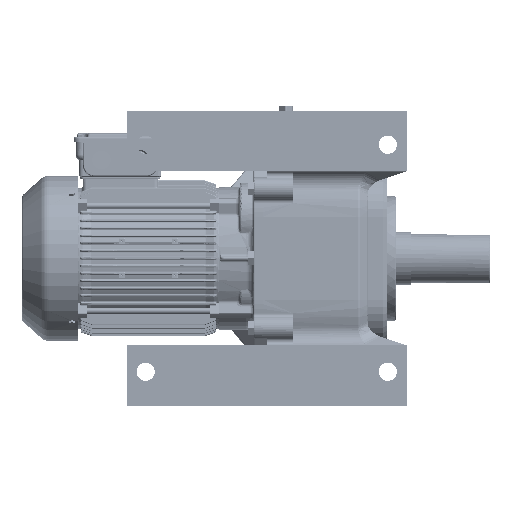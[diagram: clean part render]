
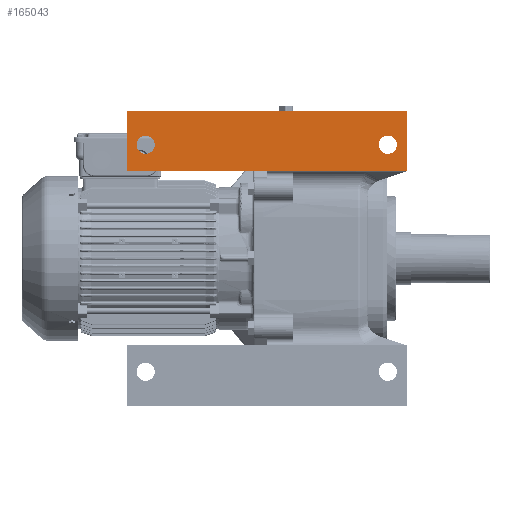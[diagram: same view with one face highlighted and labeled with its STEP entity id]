
A CAD part, front view. The second image highlights one B-rep face of the part: STEP entity #165043.
In plain terms, the highlighted planar face has unit normal (0, -1, 0).
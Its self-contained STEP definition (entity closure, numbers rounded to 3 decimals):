
#8787 = VERTEX_POINT ( 'NONE', #148010 ) ;
#13971 = DIRECTION ( 'NONE',  ( 0., 0., -1. ) ) ;
#18050 = CARTESIAN_POINT ( 'NONE',  ( 341.5, -156.029, 195. ) ) ;
#18269 = EDGE_CURVE ( 'NONE', #321681, #8787, #277908, .T. ) ;
#21047 = EDGE_LOOP ( 'NONE', ( #129175, #109691, #245119, #209710 ) ) ;
#24582 = CIRCLE ( 'NONE', #326770, 12. ) ;
#26175 = DIRECTION ( 'NONE',  ( 0., 0., 1. ) ) ;
#27180 = DIRECTION ( 'NONE',  ( 1., 0., 0. ) ) ;
#28897 = LINE ( 'NONE', #133971, #221048 ) ;
#28941 = DIRECTION ( 'NONE',  ( 0., 0., -1. ) ) ;
#32425 = EDGE_LOOP ( 'NONE', ( #206792, #201564 ) ) ;
#35971 = CARTESIAN_POINT ( 'NONE',  ( -28.5, -156.029, 0. ) ) ;
#55439 = FACE_BOUND ( 'NONE', #32425, .T. ) ;
#56499 = DIRECTION ( 'NONE',  ( 0., 1., 0. ) ) ;
#61829 = EDGE_CURVE ( 'NONE', #208867, #163824, #321484, .T. ) ;
#69780 = VECTOR ( 'NONE', #91043, 1000. ) ;
#76255 = DIRECTION ( 'NONE',  ( 0., 1., 0. ) ) ;
#77856 = CARTESIAN_POINT ( 'NONE',  ( 341.5, -156.029, 195. ) ) ;
#78162 = CARTESIAN_POINT ( 'NONE',  ( -28.5, -156.029, 115. ) ) ;
#89239 = CARTESIAN_POINT ( 'NONE',  ( 316.5, -156.029, 150. ) ) ;
#91043 = DIRECTION ( 'NONE',  ( 0., 0., -1. ) ) ;
#92712 = LINE ( 'NONE', #35971, #69780 ) ;
#96619 = DIRECTION ( 'NONE',  ( 0., 0., -1. ) ) ;
#98305 = LINE ( 'NONE', #332313, #192971 ) ;
#101259 = VERTEX_POINT ( 'NONE', #149142 ) ;
#106750 = AXIS2_PLACEMENT_3D ( 'NONE', #159758, #56499, #28941 ) ;
#109691 = ORIENTED_EDGE ( 'NONE', *, *, #319694, .T. ) ;
#120560 = EDGE_CURVE ( 'NONE', #101259, #251961, #24582, .T. ) ;
#123158 = EDGE_CURVE ( 'NONE', #163824, #208867, #211541, .T. ) ;
#129175 = ORIENTED_EDGE ( 'NONE', *, *, #296161, .T. ) ;
#133971 = CARTESIAN_POINT ( 'NONE',  ( 341.5, -156.029, 115. ) ) ;
#135630 = ORIENTED_EDGE ( 'NONE', *, *, #120560, .T. ) ;
#138142 = AXIS2_PLACEMENT_3D ( 'NONE', #77856, #162135, #26175 ) ;
#144300 = DIRECTION ( 'NONE',  ( 0., 1., 0. ) ) ;
#145457 = EDGE_LOOP ( 'NONE', ( #135630, #242442 ) ) ;
#146502 = CARTESIAN_POINT ( 'NONE',  ( -3.5, -156.029, 150. ) ) ;
#148010 = CARTESIAN_POINT ( 'NONE',  ( -28.5, -156.029, 195. ) ) ;
#149142 = CARTESIAN_POINT ( 'NONE',  ( -3.5, -156.029, 138. ) ) ;
#149864 = DIRECTION ( 'NONE',  ( 0., 1., 0. ) ) ;
#159074 = CARTESIAN_POINT ( 'NONE',  ( 316.5, -156.029, 138. ) ) ;
#159758 = CARTESIAN_POINT ( 'NONE',  ( -3.5, -156.029, 150. ) ) ;
#162135 = DIRECTION ( 'NONE',  ( 0., 1., 0. ) ) ;
#163824 = VERTEX_POINT ( 'NONE', #171381 ) ;
#165043 = ADVANCED_FACE ( 'NONE', ( #208596, #55439, #339366 ), #212027, .F. ) ;
#167772 = AXIS2_PLACEMENT_3D ( 'NONE', #89239, #144300, #170055 ) ;
#170055 = DIRECTION ( 'NONE',  ( 0., 0., -1. ) ) ;
#171381 = CARTESIAN_POINT ( 'NONE',  ( 316.5, -156.029, 162. ) ) ;
#192971 = VECTOR ( 'NONE', #96619, 1000. ) ;
#200100 = CIRCLE ( 'NONE', #106750, 12. ) ;
#201215 = CARTESIAN_POINT ( 'NONE',  ( 341.5, -156.029, 115. ) ) ;
#201564 = ORIENTED_EDGE ( 'NONE', *, *, #123158, .T. ) ;
#206570 = EDGE_CURVE ( 'NONE', #251961, #101259, #200100, .T. ) ;
#206792 = ORIENTED_EDGE ( 'NONE', *, *, #61829, .T. ) ;
#208596 = FACE_BOUND ( 'NONE', #145457, .T. ) ;
#208867 = VERTEX_POINT ( 'NONE', #159074 ) ;
#209710 = ORIENTED_EDGE ( 'NONE', *, *, #18269, .T. ) ;
#211541 = CIRCLE ( 'NONE', #255498, 12. ) ;
#212027 = PLANE ( 'NONE',  #138142 ) ;
#221048 = VECTOR ( 'NONE', #27180, 1000. ) ;
#227995 = DIRECTION ( 'NONE',  ( -1., 0., 0. ) ) ;
#240577 = CARTESIAN_POINT ( 'NONE',  ( 341.5, -156.029, 195. ) ) ;
#242442 = ORIENTED_EDGE ( 'NONE', *, *, #206570, .T. ) ;
#245119 = ORIENTED_EDGE ( 'NONE', *, *, #289980, .F. ) ;
#251961 = VERTEX_POINT ( 'NONE', #296056 ) ;
#255498 = AXIS2_PLACEMENT_3D ( 'NONE', #260311, #76255, #310262 ) ;
#260311 = CARTESIAN_POINT ( 'NONE',  ( 316.5, -156.029, 150. ) ) ;
#273532 = VERTEX_POINT ( 'NONE', #201215 ) ;
#277908 = LINE ( 'NONE', #18050, #282645 ) ;
#282645 = VECTOR ( 'NONE', #227995, 1000. ) ;
#289980 = EDGE_CURVE ( 'NONE', #321681, #273532, #98305, .T. ) ;
#296056 = CARTESIAN_POINT ( 'NONE',  ( -3.5, -156.029, 162. ) ) ;
#296161 = EDGE_CURVE ( 'NONE', #8787, #307806, #92712, .T. ) ;
#307806 = VERTEX_POINT ( 'NONE', #78162 ) ;
#310262 = DIRECTION ( 'NONE',  ( 0., 0., -1. ) ) ;
#319694 = EDGE_CURVE ( 'NONE', #307806, #273532, #28897, .T. ) ;
#321484 = CIRCLE ( 'NONE', #167772, 12. ) ;
#321681 = VERTEX_POINT ( 'NONE', #240577 ) ;
#326770 = AXIS2_PLACEMENT_3D ( 'NONE', #146502, #149864, #13971 ) ;
#332313 = CARTESIAN_POINT ( 'NONE',  ( 341.5, -156.029, 0. ) ) ;
#339366 = FACE_OUTER_BOUND ( 'NONE', #21047, .T. ) ;
